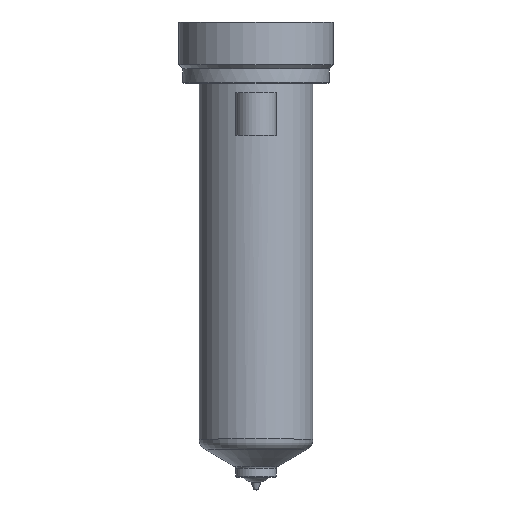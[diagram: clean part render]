
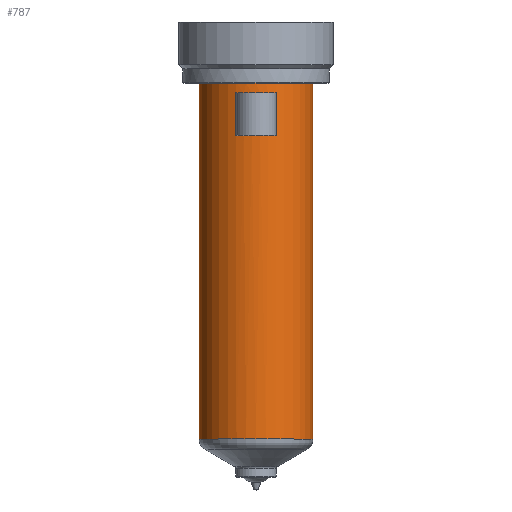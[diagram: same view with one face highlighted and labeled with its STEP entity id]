
A CAD part, top view. The second image highlights one B-rep face of the part: STEP entity #787.
In plain terms, the highlighted cylindrical face has radius 14 mm (diameter 28 mm), a partial arc.
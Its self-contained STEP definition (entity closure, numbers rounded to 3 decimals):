
#195=DIRECTION('',(0.,-1.,0.));
#196=VECTOR('',#195,87.483);
#197=CARTESIAN_POINT('',(14.,0.,0.));
#198=LINE('',#197,#196);
#199=CARTESIAN_POINT('',(0.,-87.483,0.));
#200=DIRECTION('',(0.,1.,0.));
#201=DIRECTION('',(-1.,0.,0.));
#202=AXIS2_PLACEMENT_3D('',#199,#200,#201);
#204=DIRECTION('',(0.,1.,0.));
#205=VECTOR('',#204,87.483);
#206=CARTESIAN_POINT('',(-14.,-87.483,0.));
#207=LINE('',#206,#205);
#208=CARTESIAN_POINT('',(0.,0.,0.));
#209=DIRECTION('',(0.,1.,0.));
#210=DIRECTION('',(-1.,0.,0.));
#211=AXIS2_PLACEMENT_3D('',#208,#209,#210);
#357=DIRECTION('',(0.,-1.,0.));
#358=VECTOR('',#357,10.5);
#359=CARTESIAN_POINT('',(-5.,-2.5,13.077));
#360=LINE('',#359,#358);
#365=CARTESIAN_POINT('',(0.,-13.,0.));
#366=DIRECTION('',(0.,1.,0.));
#367=DIRECTION('',(-0.357,0.,0.934));
#368=AXIS2_PLACEMENT_3D('',#365,#366,#367);
#400=CARTESIAN_POINT('',(0.,-2.5,0.));
#401=DIRECTION('',(0.,-1.,0.));
#402=DIRECTION('',(0.357,0.,0.934));
#403=AXIS2_PLACEMENT_3D('',#400,#401,#402);
#405=DIRECTION('',(0.,-1.,0.));
#406=VECTOR('',#405,10.5);
#407=CARTESIAN_POINT('',(5.,-2.5,13.077));
#408=LINE('',#407,#406);
#466=CARTESIAN_POINT('',(-14.,0.,0.));
#467=CARTESIAN_POINT('',(14.,0.,0.));
#468=VERTEX_POINT('',#466);
#469=VERTEX_POINT('',#467);
#478=CARTESIAN_POINT('',(5.,-2.5,13.077));
#479=VERTEX_POINT('',#478);
#480=CARTESIAN_POINT('',(-5.,-2.5,13.077));
#481=VERTEX_POINT('',#480);
#518=CARTESIAN_POINT('',(14.,-87.483,0.));
#519=VERTEX_POINT('',#518);
#528=CARTESIAN_POINT('',(-14.,-87.483,0.));
#529=VERTEX_POINT('',#528);
#546=CARTESIAN_POINT('',(-5.,-13.,13.077));
#547=CARTESIAN_POINT('',(5.,-13.,13.077));
#548=VERTEX_POINT('',#546);
#549=VERTEX_POINT('',#547);
#765=CARTESIAN_POINT('',(0.,16.4,0.));
#766=DIRECTION('',(0.,-1.,0.));
#767=DIRECTION('',(-1.,0.,0.));
#768=AXIS2_PLACEMENT_3D('',#765,#766,#767);
#769=CYLINDRICAL_SURFACE('',#768,14.);
#770=ORIENTED_EDGE('',*,*,#759,.T.);
#772=ORIENTED_EDGE('',*,*,#771,.F.);
#773=ORIENTED_EDGE('',*,*,#755,.T.);
#774=ORIENTED_EDGE('',*,*,#745,.T.);
#775=EDGE_LOOP('',(#770,#772,#773,#774));
#776=FACE_OUTER_BOUND('',#775,.F.);
#778=ORIENTED_EDGE('',*,*,#777,.T.);
#780=ORIENTED_EDGE('',*,*,#779,.T.);
#782=ORIENTED_EDGE('',*,*,#781,.F.);
#784=ORIENTED_EDGE('',*,*,#783,.T.);
#785=EDGE_LOOP('',(#778,#780,#782,#784));
#786=FACE_BOUND('',#785,.F.);
#787=ADVANCED_FACE('',(#776,#786),#769,.T.);
#203=CIRCLE('',#202,14.);
#212=CIRCLE('',#211,14.);
#369=CIRCLE('',#368,14.);
#404=CIRCLE('',#403,14.);
#745=EDGE_CURVE('',#468,#469,#212,.T.);
#755=EDGE_CURVE('',#529,#468,#207,.T.);
#759=EDGE_CURVE('',#469,#519,#198,.T.);
#771=EDGE_CURVE('',#529,#519,#203,.T.);
#777=EDGE_CURVE('',#481,#548,#360,.T.);
#779=EDGE_CURVE('',#548,#549,#369,.T.);
#781=EDGE_CURVE('',#479,#549,#408,.T.);
#783=EDGE_CURVE('',#479,#481,#404,.T.);
